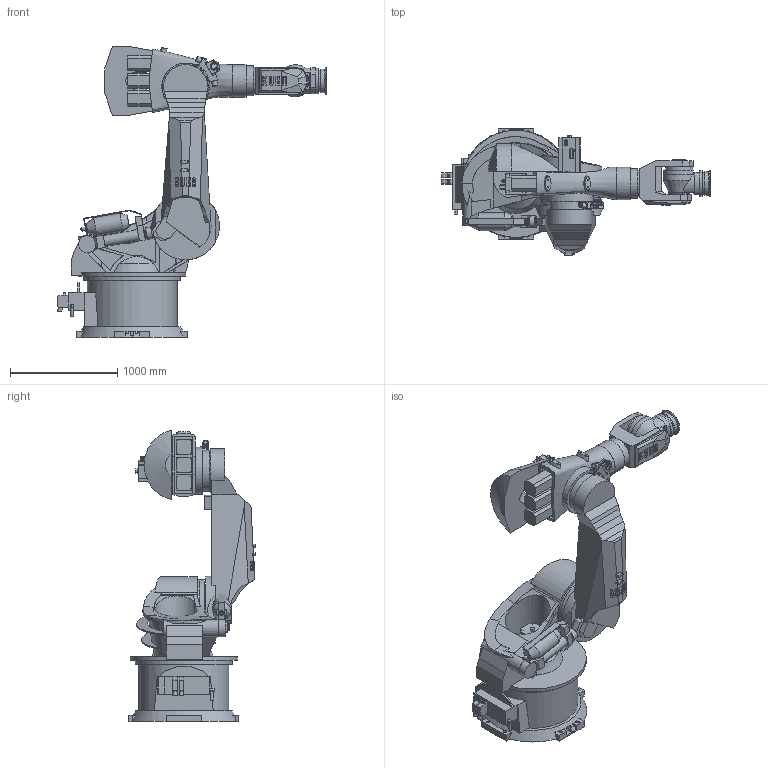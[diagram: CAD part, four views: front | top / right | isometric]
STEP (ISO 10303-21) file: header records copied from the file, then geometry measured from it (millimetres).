
FILE_DESCRIPTION(/* description */ (''),/* implementation_level */ '2;1');
FILE_NAME(/* name */ 'KR500-2_KR360-2',/* time_stamp */ '2006-05-18T10:15:28+02:00',/* author */ (''),/* organization */ (''),/* preprocessor_version */ 'ST-DEVELOPER v9',/* originating_system */ 'EDS PLM SOLUTIONS - UNIGRAPHICS NX 1.0',/* authorisation */ '');
FILE_SCHEMA (('CONFIG_CONTROL_DESIGN'));
Length unit declared in the file: millimetre
Products named in the file (1): saulE72D001n
Bounding box: 2510.99 x 1183 x 2724.39 mm (x, y, z)
Volume: 1012246662.1 mm3; surface area: 18495185.1 mm2
Topology: 33 solids, 34 shells, 1303 faces, 3401 edges, 2237 vertices
Faces by surface type: plane 949, cylinder 235, cone 46, torus 36, bspline 31, sphere 4, extrusion 2
Full cylindrical faces by diameter (mm): 7.188 x4, 8.4 x4, 8.782 x2, 8.985 x2, 9 x2, 9.391 x6, 10 x2, 11 x1, 12 x3, 12.5 x4, 14 x3, 17.5 x4, 26 x6, 31 x10, 35 x2, 40 x4, 50 x2, 62 x1, 65 x1, 68 x1, 100 x8, 110 x1, 120 x5, 125 x1, 159 x1, 170 x1, 195.36 x1, 202 x1, 220 x1, 238 x1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
Entity records: 45646 total; most frequent: CARTESIAN_POINT 14551, ORIENTED_EDGE 6318, DIRECTION 6155, EDGE_CURVE 3159, VECTOR 2271, LINE 2269, VERTEX_POINT 2167, AXIS2_PLACEMENT_3D 1942
